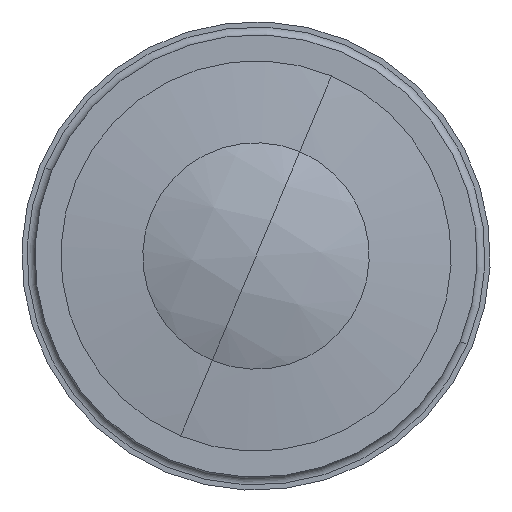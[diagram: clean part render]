
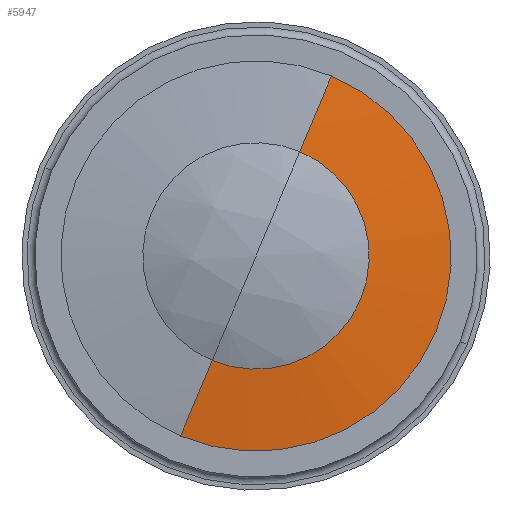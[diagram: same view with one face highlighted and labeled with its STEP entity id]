
A CAD part, left-side view. The second image highlights one B-rep face of the part: STEP entity #5947.
In plain terms, the highlighted spherical face has radius 56.5 mm.
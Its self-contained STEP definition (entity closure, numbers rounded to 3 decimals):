
#373 = EDGE_CURVE ( 'NONE', #5654, #5653, #3846, .T. ) ;
#374 = EDGE_CURVE ( 'NONE', #5653, #5650, #3847, .T. ) ;
#375 = EDGE_CURVE ( 'NONE', #5651, #5650, #3843, .T. ) ;
#376 = EDGE_CURVE ( 'NONE', #5678, #5651, #3844, .T. ) ;
#377 = EDGE_CURVE ( 'NONE', #5654, #5678, #3842, .T. ) ;
#1103 = CARTESIAN_POINT ( 'NONE',  ( 26.454, 4.35, 0. ) ) ;
#1128 = CARTESIAN_POINT ( 'NONE',  ( 26.786, 7.5, 0. ) ) ;
#1129 = CARTESIAN_POINT ( 'NONE',  ( 26.786, -7.5, 0. ) ) ;
#1131 = CARTESIAN_POINT ( 'NONE',  ( 26.454, 0., -4.35 ) ) ;
#1132 = CARTESIAN_POINT ( 'NONE',  ( 26.454, -4.35, 0. ) ) ;
#2464 = DIRECTION ( 'NONE',  ( 1., 0., 0. ) ) ;
#2465 = DIRECTION ( 'NONE',  ( 0., 0., 1. ) ) ;
#2466 = CARTESIAN_POINT ( 'NONE',  ( 82.786, 0., 0. ) ) ;
#2468 = DIRECTION ( 'NONE',  ( 0., 0., 1. ) ) ;
#2469 = DIRECTION ( 'NONE',  ( -1., 0., 0. ) ) ;
#2470 = CARTESIAN_POINT ( 'NONE',  ( 26.454, 0., 0. ) ) ;
#2471 = DIRECTION ( 'NONE',  ( 0., 0., 1. ) ) ;
#2472 = DIRECTION ( 'NONE',  ( -1., 0., 0. ) ) ;
#2473 = CARTESIAN_POINT ( 'NONE',  ( 26.454, 0., 0. ) ) ;
#2474 = DIRECTION ( 'NONE',  ( 0., 1., 0. ) ) ;
#2475 = DIRECTION ( 'NONE',  ( 0., 0., -1. ) ) ;
#2476 = CARTESIAN_POINT ( 'NONE',  ( 82.786, 0., 0. ) ) ;
#2477 = DIRECTION ( 'NONE',  ( 0., 0., 1. ) ) ;
#2478 = DIRECTION ( 'NONE',  ( -1., 0., 0. ) ) ;
#2479 = CARTESIAN_POINT ( 'NONE',  ( 26.786, 0., 0. ) ) ;
#3573 = FACE_OUTER_BOUND ( 'NONE', #4944, .T. ) ;
#3581 = SPHERICAL_SURFACE ( 'NONE', #4278, 56.5 ) ;
#3842 = CIRCLE ( 'NONE', #4123, 56.5 ) ;
#3843 = CIRCLE ( 'NONE', #4355, 4.35 ) ;
#3844 = CIRCLE ( 'NONE', #4130, 4.35 ) ;
#3846 = CIRCLE ( 'NONE', #4349, 7.5 ) ;
#3847 = CIRCLE ( 'NONE', #4350, 56.5 ) ;
#4123 = AXIS2_PLACEMENT_3D ( 'NONE', #2466, #2465, #2464 ) ;
#4130 = AXIS2_PLACEMENT_3D ( 'NONE', #2470, #2469, #2468 ) ;
#4278 = AXIS2_PLACEMENT_3D ( 'NONE', #6177, #6175, #6180 ) ;
#4349 = AXIS2_PLACEMENT_3D ( 'NONE', #2479, #2478, #2477 ) ;
#4350 = AXIS2_PLACEMENT_3D ( 'NONE', #2476, #2475, #2474 ) ;
#4355 = AXIS2_PLACEMENT_3D ( 'NONE', #2473, #2472, #2471 ) ;
#4944 = EDGE_LOOP ( 'NONE', ( #5409, #5410, #5411, #5412, #5413 ) ) ;
#5409 = ORIENTED_EDGE ( 'NONE', *, *, #373, .T. ) ;
#5410 = ORIENTED_EDGE ( 'NONE', *, *, #374, .T. ) ;
#5411 = ORIENTED_EDGE ( 'NONE', *, *, #375, .F. ) ;
#5412 = ORIENTED_EDGE ( 'NONE', *, *, #376, .F. ) ;
#5413 = ORIENTED_EDGE ( 'NONE', *, *, #377, .F. ) ;
#5650 = VERTEX_POINT ( 'NONE', #1132 ) ;
#5651 = VERTEX_POINT ( 'NONE', #1131 ) ;
#5653 = VERTEX_POINT ( 'NONE', #1129 ) ;
#5654 = VERTEX_POINT ( 'NONE', #1128 ) ;
#5678 = VERTEX_POINT ( 'NONE', #1103 ) ;
#5947 = ADVANCED_FACE ( 'NONE', ( #3573 ), #3581, .T. ) ;
#6175 = DIRECTION ( 'NONE',  ( 0., 0., -1. ) ) ;
#6177 = CARTESIAN_POINT ( 'NONE',  ( 82.786, 0., 0. ) ) ;
#6180 = DIRECTION ( 'NONE',  ( 0., 1., 0. ) ) ;
